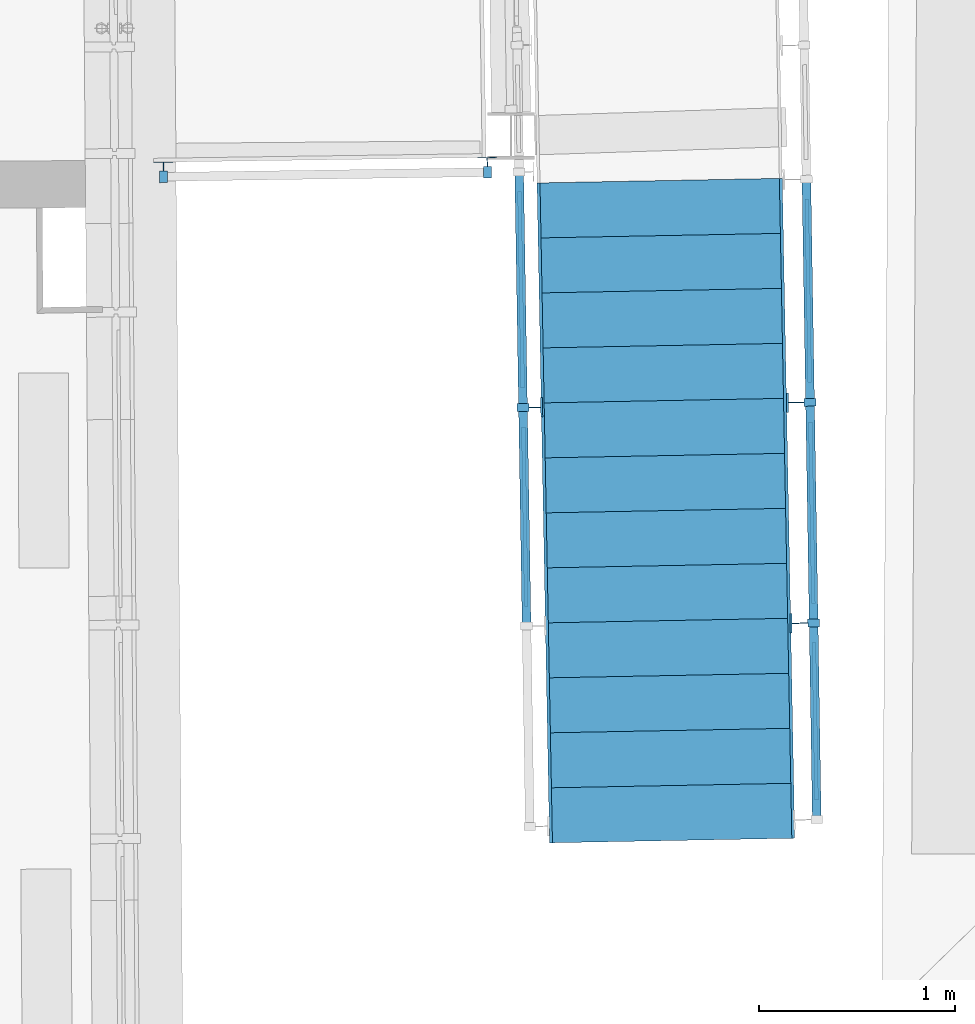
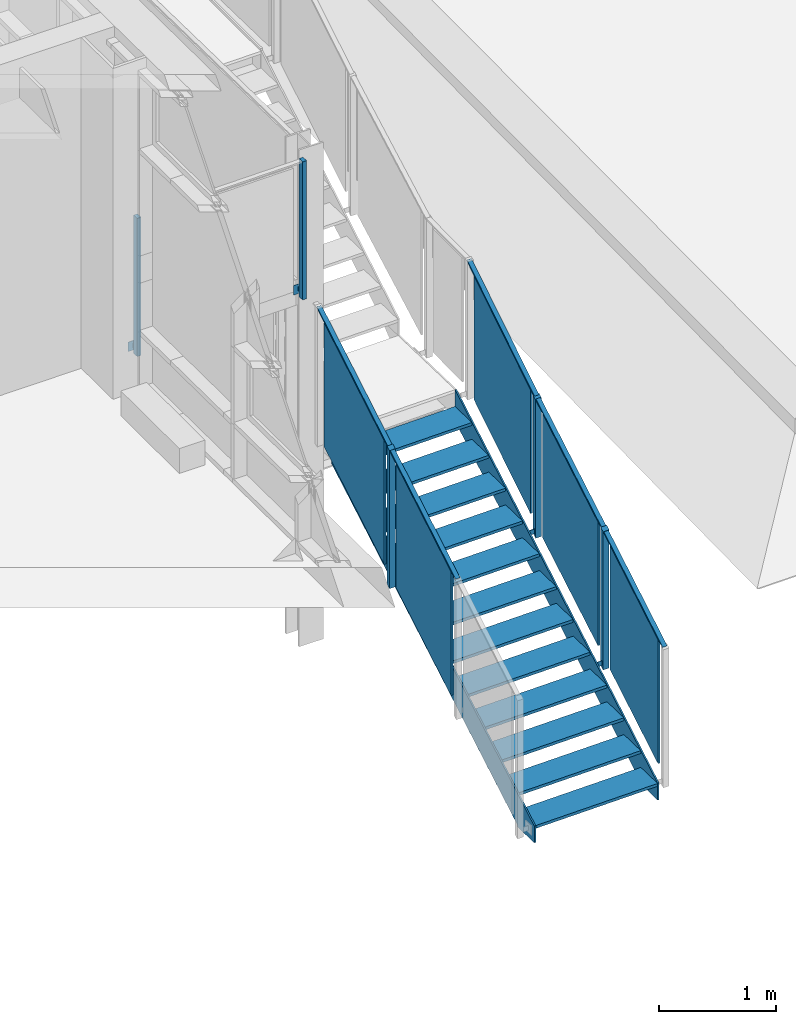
# One storey, part 107 of 158: 18 building element parts, 4 elements without a shape of their own.
"""IFC2X3 building model written with IfcOpenShell, lengths in metres."""

from ifc_helpers import new_model, entity, si_unit, converted_unit, derived_unit, money_unit, direction, frame, origin_with_axes, place, context, subcontext, project, spatial, faceted_brep, material, type_object, element, aggregate, save


model = new_model("IFC2X3")

# Units and contexts
model_context = context("Model", 3, precision=1e-05, world=origin_with_axes(), true_north=direction((0.0, 1.0)))
body_context = subcontext(model_context, "Body", "Model", "MODEL_VIEW")
ifc_project = project(units=[si_unit("LENGTHUNIT", "METRE"), si_unit("AREAUNIT", "SQUARE_METRE"), si_unit("VOLUMEUNIT", "CUBIC_METRE"), converted_unit("PLANEANGLEUNIT", "DEGREE", entity("IfcPlaneAngleMeasure", 0.0174532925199), si_unit("PLANEANGLEUNIT", "RADIAN"), dimensions=[0, 0, 0, 0, 0, 0, 0]), money_unit("EUR"), converted_unit("TIMEUNIT", "Year", entity("IfcTimeMeasure", 31556926.0), si_unit("TIMEUNIT", "SECOND"), dimensions=[0, 0, 1, 0, 0, 0, 0]), si_unit("MASSUNIT", "GRAM", prefix="KILO"), si_unit("THERMODYNAMICTEMPERATUREUNIT", "DEGREE_CELSIUS"), si_unit("LUMINOUSINTENSITYUNIT", "LUMEN"), si_unit("ENERGYUNIT", "JOULE", prefix="MEGA"), derived_unit("THERMALCONDUCTANCEUNIT", [(si_unit("POWERUNIT", "WATT"), 1), (si_unit("LENGTHUNIT", "METRE"), -1), (si_unit("THERMODYNAMICTEMPERATUREUNIT", "KELVIN"), -1)]), derived_unit("SPECIFICHEATCAPACITYUNIT", [(si_unit("ENERGYUNIT", "JOULE"), 1), (si_unit("MASSUNIT", "GRAM", prefix="KILO"), -1), (si_unit("THERMODYNAMICTEMPERATUREUNIT", "KELVIN"), -1)]), derived_unit("MASSDENSITYUNIT", [(si_unit("MASSUNIT", "GRAM", prefix="KILO"), 1), (si_unit("VOLUMEUNIT", "CUBIC_METRE"), -1)])], contexts=[model_context])

# Site, building, storey
site_placement = place(None, origin_with_axes())
site = spatial("IfcSite", under=ifc_project, at=site_placement, Name="Gelände", CompositionType="ELEMENT")
building_placement = place(site_placement, origin_with_axes())
building = spatial("IfcBuilding", under=site, at=building_placement, Name="Gebäude", CompositionType="ELEMENT")
storey_placement = place(building_placement, origin_with_axes())
storey = spatial("IfcBuildingStorey", under=building, at=storey_placement, Name="ERDGESCHOSS", CompositionType="ELEMENT", Elevation=0.0)

# Proxy, building element parts
building_element_proxy_type = type_object("IfcBuildingElementProxyType", Name="Geländerart", PredefinedType="NOTDEFINED")
proxy_1_placement = place(storey_placement, frame((-13.9943810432, 42.5620318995, 1.16389833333), z_axis=(0.0, 0.0, 1.0), x_axis=(0.999944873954, -0.0104999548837, 0.0)))
proxy_1 = element("IfcBuildingElementProxy", 1, at=proxy_1_placement, inside=storey, type_object=building_element_proxy_type, Name="Geländer-001")
ifc_material_1 = material(Name="56_Metall, Stahl verzinkt")
building_element_part_1_placement = place(proxy_1_placement, origin_with_axes())
building_element_part_1 = element("IfcBuildingElementPart", 2, at=building_element_part_1_placement, material=ifc_material_1, Name="56_Metall, Stahl verzinkt", context=body_context, shape_type="Brep", body=[
    faceted_brep([(0.331980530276, 0.0385918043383, 0.025), (0.331980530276, 0.0385918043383, 0.075), (0.330915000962, 0.0815786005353, 0.075), (0.330915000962, 0.0815786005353, 0.025), (0.33697899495, 0.0387157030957, 0.075), (0.33697899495, 0.0387157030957, 0.025), (0.335913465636, 0.0817024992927, 0.075), (0.335913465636, 0.0817024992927, 0.025)], [[[0, 1, 2, 3]], [[4, 1, 0, 5]], [[1, 4, 6, 2]], [[3, 2, 6, 7]], [[5, 0, 3, 7]], [[4, 5, 7, 6]]]),
    faceted_brep([(0.283355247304, 0.0834006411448, 0.1), (0.283429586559, 0.0804015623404, 0.1), (0.38339888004, 0.0828795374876, 0.1), (0.383324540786, 0.085878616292, 0.1), (0.283355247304, 0.0834006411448, 0.0), (0.283429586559, 0.0804015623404, 0.0), (0.38339888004, 0.0828795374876, 0.0), (0.383324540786, 0.085878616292, 0.0)], [[[0, 1, 2, 3]], [[4, 5, 1, 0]], [[1, 5, 6, 2]], [[3, 2, 6, 7]], [[0, 3, 7, 4]], [[7, 6, 5, 4]]]),
    faceted_brep([(0.314485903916, 0.0381581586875, 0.0), (0.315972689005, -0.0218234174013, 0.0), (0.315972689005, -0.0218234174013, 1.445), (0.314485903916, 0.0381581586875, 1.445), (0.354473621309, 0.0391493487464, 0.0), (0.355960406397, -0.0208322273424, 0.0), (0.355960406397, -0.0208322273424, 1.445), (0.354473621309, 0.0391493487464, 1.445)], [[[0, 1, 2, 3]], [[0, 4, 5, 1]], [[1, 5, 6, 2]], [[3, 2, 6, 7]], [[4, 0, 3, 7]], [[5, 4, 7, 6]]]),
])
building_element_part_2_placement = place(proxy_1_placement, origin_with_axes())
building_element_part_2 = element("IfcBuildingElementPart", 3, at=building_element_part_2_placement, material=ifc_material_1, Name="56_Metall, Stahl verzinkt", context=body_context, shape_type="Brep", body=[
    faceted_brep([(-1.31808667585, -0.00230901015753, 0.025), (-1.31808667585, -0.00230901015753, 0.075), (-1.31915220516, 0.0406777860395, 0.075), (-1.31915220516, 0.0406777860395, 0.025), (-1.31308821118, -0.00218511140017, 0.075), (-1.31308821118, -0.00218511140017, 0.025), (-1.31415374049, 0.0408016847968, 0.075), (-1.31415374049, 0.0408016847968, 0.025)], [[[0, 1, 2, 3]], [[4, 1, 0, 5]], [[1, 4, 6, 2]], [[3, 2, 6, 7]], [[5, 0, 3, 7]], [[4, 5, 7, 6]]]),
    faceted_brep([(-1.36671195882, 0.042499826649, 0.1), (-1.36663761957, 0.0395007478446, 0.1), (-1.26666832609, 0.0419787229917, 0.1), (-1.26674266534, 0.0449778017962, 0.1), (-1.36671195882, 0.042499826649, 0.0), (-1.36663761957, 0.0395007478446, 0.0), (-1.26666832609, 0.0419787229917, 0.0), (-1.26674266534, 0.0449778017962, 0.0)], [[[0, 1, 2, 3]], [[4, 5, 1, 0]], [[1, 5, 6, 2]], [[3, 2, 6, 7]], [[0, 3, 7, 4]], [[7, 6, 5, 4]]]),
    faceted_brep([(-1.33558130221, -0.00274265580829, 0.0), (-1.33409451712, -0.0627242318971, 0.0), (-1.33409451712, -0.0627242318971, 1.445), (-1.33558130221, -0.00274265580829, 1.445), (-1.29559358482, -0.00175146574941, 0.0), (-1.29410679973, -0.0617330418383, 0.0), (-1.29410679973, -0.0617330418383, 1.445), (-1.29559358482, -0.00175146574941, 1.445)], [[[0, 1, 2, 3]], [[0, 4, 5, 1]], [[1, 5, 6, 2]], [[3, 2, 6, 7]], [[4, 0, 3, 7]], [[5, 4, 7, 6]]]),
])
aggregate(proxy_1, [building_element_part_1, building_element_part_2])

proxy_2_placement = place(storey_placement, frame((-13.4431717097, 39.2328276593, -2.51797066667), z_axis=(0.0, 0.0, 1.0), x_axis=(1.0, 0.0, 0.0)))
proxy_2 = element("IfcBuildingElementProxy", 4, at=proxy_2_placement, inside=storey, type_object=building_element_proxy_type, Name="Geländer-001")
building_element_part_3_placement = place(proxy_2_placement, origin_with_axes())
building_element_part_3 = element("IfcBuildingElementPart", 5, at=building_element_part_3_placement, material=ifc_material_1, Name="56_Metall, Stahl verzinkt", context=body_context, shape_type="Brep", body=[
    faceted_brep([(-0.00455572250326, 2.13777193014, 1.360027), (-0.00455572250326, 2.13777193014, 1.410027), (0.0554363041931, 2.13875005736, 1.410027), (0.0554363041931, 2.13875005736, 1.360027), (-0.00447421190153, 2.13277259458, 1.410027), (-0.00447421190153, 2.13277259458, 1.360027), (0.0555178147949, 2.1337507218, 1.410027), (0.0555178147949, 2.1337507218, 1.360027)], [[[0, 1, 2, 3]], [[4, 1, 0, 5]], [[1, 4, 6, 2]], [[3, 2, 6, 7]], [[5, 0, 3, 7]], [[4, 5, 7, 6]]]),
    faceted_brep([(0.0646606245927, 2.18640676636, 1.435027), (0.0546619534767, 2.18624374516, 1.435027), (0.0562921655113, 2.086257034, 1.435027), (0.0662908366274, 2.0864200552, 1.435027), (0.0646606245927, 2.18640676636, 1.335027), (0.0546619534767, 2.18624374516, 1.335027), (0.0562921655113, 2.086257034, 1.335027), (0.0662908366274, 2.0864200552, 1.335027)], [[[0, 1, 2, 3]], [[4, 5, 1, 0]], [[1, 5, 6, 2]], [[3, 2, 6, 7]], [[0, 3, 7, 4]], [[7, 6, 5, 4]]]),
    faceted_brep([(-0.00484100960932, 2.15526960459, 1.34764300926), (-0.0648330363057, 2.15429147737, 1.34764300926), (-0.0648330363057, 2.15429147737, 2.79264300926), (-0.00484100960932, 2.15526960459, 2.79264300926), (-0.00418892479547, 2.11527492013, 1.32241099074), (-0.0641809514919, 2.11429679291, 1.32241099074), (-0.0641809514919, 2.11429679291, 2.76741099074), (-0.00418892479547, 2.11527492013, 2.76741099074)], [[[0, 1, 2, 3]], [[0, 4, 5, 1]], [[1, 5, 6, 2]], [[3, 2, 6, 7]], [[4, 0, 3, 7]], [[5, 4, 7, 6]]]),
])
building_element_part_4_placement = place(proxy_2_placement, origin_with_axes())
building_element_part_4 = element("IfcBuildingElementPart", 6, at=building_element_part_4_placement, material=ifc_material_1, Name="56_Metall, Stahl verzinkt", context=body_context, shape_type="Brep", body=[
    faceted_brep([(0.00613821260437, 1.02181193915, 2.077558), (0.00600975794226, 1.02976114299, 2.06483803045), (-0.0121444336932, 2.14315176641, 2.76734020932), (-0.0388559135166, 1.02108485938, 2.077558), (-0.0389843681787, 1.02903406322, 2.06483803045), (-0.0571384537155, 2.14241817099, 2.76734020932), (-0.0120139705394, 2.13514999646, 2.780027), (-0.0570079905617, 2.13441640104, 2.780027)], [[[0, 1, 2]], [[0, 3, 4, 1]], [[1, 5, 2]], [[0, 2, 6]], [[3, 0, 6]], [[4, 3, 7]], [[1, 4, 5]], [[6, 2, 5, 7]], [[3, 6, 7]], [[4, 7, 5]]]),
])
building_element_part_5_placement = place(proxy_2_placement, origin_with_axes())
building_element_part_5 = element("IfcBuildingElementPart", 7, at=building_element_part_5_placement, material=ifc_material_1, Name="56_Metall, Stahl verzinkt", context=body_context, shape_type="Brep", body=[
    faceted_brep([(-0.042879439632, 2.03463346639, 1.37193944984), (-0.0279877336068, 1.12127208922, 0.795645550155), (-0.0279877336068, 1.12127208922, 2.09064555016), (-0.042879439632, 2.03463346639, 2.66693944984), (-0.0283137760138, 1.14126943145, 2.07961561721), (-0.0283137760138, 1.14126943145, 0.831910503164), (-0.0425533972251, 2.01463612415, 1.38296938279), (-0.0425533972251, 2.01463612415, 2.63067449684), (-0.0079903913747, 1.12159813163, 0.795645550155), (-0.0228820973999, 2.03495950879, 1.37193944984), (-0.0079903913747, 1.12159813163, 2.09064555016), (-0.0228820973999, 2.03495950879, 2.66693944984), (-0.00831643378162, 1.14159547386, 0.831910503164), (-0.00831643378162, 1.14159547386, 2.07961561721), (-0.022556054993, 2.01496216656, 1.38296938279), (-0.022556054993, 2.01496216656, 2.63067449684)], [[[0, 1, 2, 3], [4, 5, 6, 7]], [[8, 1, 0, 9]], [[10, 2, 1, 8]], [[3, 2, 10, 11]], [[0, 3, 11, 9]], [[12, 5, 4, 13]], [[14, 6, 5, 12]], [[7, 6, 14, 15]], [[4, 7, 15, 13]], [[10, 8, 9, 11], [14, 12, 13, 15]]]),
    faceted_brep([(-0.0425533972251, 2.01463612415, 1.38296938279), (-0.0283137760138, 1.14126943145, 0.831910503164), (-0.0283137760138, 1.14126943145, 2.07961561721), (-0.0425533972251, 2.01463612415, 2.63067449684), (-0.00831643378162, 1.14159547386, 0.831910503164), (-0.022556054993, 2.01496216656, 1.38296938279), (-0.00831643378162, 1.14159547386, 2.07961561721), (-0.022556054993, 2.01496216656, 2.63067449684)], [[[0, 1, 2, 3]], [[4, 1, 0, 5]], [[6, 2, 1, 4]], [[3, 2, 6, 7]], [[0, 3, 7, 5]], [[6, 4, 5, 7]]]),
])
building_element_part_6_placement = place(proxy_2_placement, origin_with_axes())
building_element_part_6 = element("IfcBuildingElementPart", 8, at=building_element_part_6_placement, material=ifc_material_1, Name="56_Metall, Stahl verzinkt", context=body_context, shape_type="Brep", body=[
    faceted_brep([(-0.0120139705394, 2.13514999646, 2.780027), (-0.0121444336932, 2.14315176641, 2.76734020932), (-0.0316664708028, 3.34050784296, 3.522643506), (-0.0315916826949, 3.33592082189, 3.53748435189), (-0.0570079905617, 2.13441640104, 2.780027), (-0.0571384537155, 2.14241817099, 2.76734020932), (-0.0766604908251, 3.33977424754, 3.522643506), (-0.0765857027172, 3.33518722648, 3.53748435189)], [[[0, 1, 2, 3]], [[0, 4, 5, 1]], [[1, 5, 6, 2]], [[3, 2, 6, 7]], [[4, 0, 3, 7]], [[5, 4, 7, 6]]]),
])
building_element_part_7_placement = place(proxy_2_placement, origin_with_axes())
building_element_part_7 = element("IfcBuildingElementPart", 9, at=building_element_part_7_placement, material=ifc_material_1, Name="56_Metall, Stahl verzinkt", context=body_context, shape_type="Brep", body=[
    faceted_brep([(-0.0624571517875, 3.23540429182, 2.12941180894), (-0.0461398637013, 2.23460688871, 1.49809954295), (-0.0461398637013, 2.23460688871, 2.79309954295), (-0.0624571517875, 3.23540429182, 3.42441180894), (-0.0464659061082, 2.25460423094, 2.7820682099), (-0.0464659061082, 2.25460423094, 1.53435989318), (-0.0621311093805, 3.21540694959, 2.14044314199), (-0.0621311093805, 3.21540694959, 3.38815145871), (-0.0261425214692, 2.23493293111, 1.49809954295), (-0.0424598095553, 3.23573033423, 2.12941180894), (-0.0261425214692, 2.23493293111, 2.79309954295), (-0.0424598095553, 3.23573033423, 3.42441180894), (-0.0264685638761, 2.25493027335, 1.53435989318), (-0.0264685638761, 2.25493027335, 2.7820682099), (-0.0421337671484, 3.215732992, 2.14044314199), (-0.0421337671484, 3.215732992, 3.38815145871)], [[[0, 1, 2, 3], [4, 5, 6, 7]], [[8, 1, 0, 9]], [[10, 2, 1, 8]], [[3, 2, 10, 11]], [[0, 3, 11, 9]], [[12, 5, 4, 13]], [[14, 6, 5, 12]], [[7, 6, 14, 15]], [[4, 7, 15, 13]], [[10, 8, 9, 11], [14, 12, 13, 15]]]),
    faceted_brep([(-0.0621311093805, 3.21540694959, 2.14044314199), (-0.0464659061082, 2.25460423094, 1.53435989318), (-0.0464659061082, 2.25460423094, 2.7820682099), (-0.0621311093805, 3.21540694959, 3.38815145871), (-0.0264685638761, 2.25493027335, 1.53435989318), (-0.0421337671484, 3.215732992, 2.14044314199), (-0.0264685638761, 2.25493027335, 2.7820682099), (-0.0421337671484, 3.215732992, 3.38815145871)], [[[0, 1, 2, 3]], [[4, 1, 0, 5]], [[6, 2, 1, 4]], [[3, 2, 6, 7]], [[0, 3, 7, 5]], [[6, 4, 5, 7]]]),
])
aggregate(proxy_2, [building_element_part_3, building_element_part_4, building_element_part_5, building_element_part_6, building_element_part_7])

proxy_3_placement = place(storey_placement, frame((-12.121386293, 39.1724071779, -2.51797066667), z_axis=(0.0, 0.0, 1.0), x_axis=(1.0, 0.0, 0.0)))
proxy_3 = element("IfcBuildingElementProxy", 10, at=proxy_3_placement, inside=storey, type_object=building_element_proxy_type, Name="Geländer-001")
building_element_part_8_placement = place(proxy_3_placement, origin_with_axes())
building_element_part_8 = element("IfcBuildingElementPart", 11, at=building_element_part_8_placement, material=ifc_material_1, Name="56_Metall, Stahl verzinkt", context=body_context, shape_type="Brep", body=[
    faceted_brep([(0.0949144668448, 1.09425760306, 0.707558), (0.0948344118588, 1.09925696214, 0.707558), (0.0148446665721, 1.09797608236, 0.707558), (0.0149247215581, 1.09297672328, 0.707558), (0.0948344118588, 1.09925696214, 0.657558), (0.0949144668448, 1.09425760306, 0.657558), (0.0148446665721, 1.09797608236, 0.657558), (0.0149247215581, 1.09297672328, 0.657558)], [[[0, 1, 2, 3]], [[4, 1, 0, 5]], [[1, 4, 6, 2]], [[7, 3, 2, 6]], [[5, 0, 3, 7]], [[4, 5, 7, 6]]]),
    faceted_brep([(0.00568652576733, 1.04532270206, 0.732558), (0.015685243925, 1.04548281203, 0.732558), (0.0140841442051, 1.14546999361, 0.732558), (0.00408542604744, 1.14530988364, 0.732558), (0.00568652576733, 1.04532270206, 0.632558), (0.015685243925, 1.04548281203, 0.632558), (0.0140841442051, 1.14546999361, 0.632558), (0.00408542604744, 1.14530988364, 0.632558)], [[[0, 1, 2, 3]], [[4, 5, 1, 0]], [[1, 5, 6, 2]], [[3, 2, 6, 7]], [[0, 3, 7, 4]], [[7, 6, 5, 4]]]),
    faceted_brep([(0.154546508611, 1.11771660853, 0.645113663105), (0.0945542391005, 1.11675348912, 0.645117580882), (0.0945542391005, 1.11675348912, 2.09011758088), (0.154546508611, 1.11771660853, 2.0901136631), (0.155186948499, 1.0777217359, 0.619998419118), (0.0951946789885, 1.07675861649, 0.620002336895), (0.0951946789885, 1.07675861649, 2.0650023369), (0.155186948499, 1.0777217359, 2.06499841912)], [[[0, 1, 2, 3]], [[0, 4, 5, 1]], [[1, 5, 6, 2]], [[3, 2, 6, 7]], [[4, 0, 3, 7]], [[5, 4, 7, 6]]]),
])
building_element_part_9_placement = place(proxy_3_placement, origin_with_axes())
building_element_part_9 = element("IfcBuildingElementPart", 12, at=building_element_part_9_placement, material=ifc_material_1, Name="56_Metall, Stahl verzinkt", context=body_context, shape_type="Brep", body=[
    faceted_brep([(0.0765735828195, 2.21921392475, 1.410027), (0.0764920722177, 2.22421326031, 1.410027), (-0.00349729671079, 2.22290909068, 1.410027), (-0.00341578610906, 2.21790975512, 1.410027), (0.0764920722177, 2.22421326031, 1.360027), (0.0765735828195, 2.21921392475, 1.360027), (-0.00349729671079, 2.22290909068, 1.360027), (-0.00341578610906, 2.21790975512, 1.360027)], [[[0, 1, 2, 3]], [[4, 1, 0, 5]], [[1, 4, 6, 2]], [[7, 3, 2, 6]], [[5, 0, 3, 7]], [[4, 5, 7, 6]]]),
    faceted_brep([(-0.0126401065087, 2.17025304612, 1.435027), (-0.0026414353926, 2.17041606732, 1.435027), (-0.00427164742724, 2.27040277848, 1.435027), (-0.0142703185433, 2.27023975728, 1.435027), (-0.0126401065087, 2.17025304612, 1.335027), (-0.0026414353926, 2.17041606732, 1.335027), (-0.00427164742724, 2.27040277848, 1.335027), (-0.0142703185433, 2.27023975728, 1.335027)], [[[0, 1, 2, 3]], [[4, 5, 1, 0]], [[1, 5, 6, 2]], [[3, 2, 6, 7]], [[0, 3, 7, 4]], [[7, 6, 5, 4]]]),
    faceted_brep([(0.136198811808, 2.24268906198, 1.34792736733), (0.0762067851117, 2.24171093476, 1.34792736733), (0.0762067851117, 2.24171093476, 2.79292736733), (0.136198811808, 2.24268906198, 2.79292736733), (0.136850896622, 2.20269437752, 1.32212663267), (0.0768588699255, 2.2017162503, 1.32212663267), (0.0768588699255, 2.2017162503, 2.76712663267), (0.136850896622, 2.20269437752, 2.76712663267)], [[[0, 1, 2, 3]], [[0, 4, 5, 1]], [[1, 5, 6, 2]], [[3, 2, 6, 7]], [[4, 0, 3, 7]], [[5, 4, 7, 6]]]),
])
building_element_part_10_placement = place(proxy_3_placement, origin_with_axes())
building_element_part_10 = element("IfcBuildingElementPart", 13, at=building_element_part_10_placement, material=ifc_material_1, Name="56_Metall, Stahl verzinkt", context=body_context, shape_type="Brep", body=[
    faceted_brep([(0.163407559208, 0.0959242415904, 1.445), (0.163279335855, 0.103931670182, 1.43231675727), (0.147238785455, 1.10557641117, 2.06485446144), (0.118413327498, 0.0952037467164, 1.445), (0.118285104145, 0.103211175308, 1.43231675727), (0.102244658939, 1.10484935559, 2.06485446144), (0.147367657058, 1.0976011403, 2.077558), (0.102373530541, 1.09687408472, 2.077558)], [[[0, 1, 2]], [[0, 3, 4, 1]], [[1, 5, 2]], [[0, 2, 6]], [[3, 0, 6]], [[4, 3, 7]], [[1, 4, 5]], [[6, 2, 5, 7]], [[3, 6, 7]], [[4, 7, 5]]]),
])
building_element_part_11_placement = place(proxy_3_placement, origin_with_axes())
building_element_part_11 = element("IfcBuildingElementPart", 14, at=building_element_part_11_placement, material=ifc_material_1, Name="56_Metall, Stahl verzinkt", context=body_context, shape_type="Brep", body=[
    faceted_brep([(0.116472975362, 0.997090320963, 0.669415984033), (0.129310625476, 0.195391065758, 0.163142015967), (0.129310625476, 0.195391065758, 1.45814201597), (0.116472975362, 0.997090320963, 1.96441598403), (0.128990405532, 0.215388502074, 1.44711716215), (0.128990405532, 0.215388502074, 0.199423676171), (0.116793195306, 0.977092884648, 0.680440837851), (0.116793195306, 0.977092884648, 1.92813432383), (0.149308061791, 0.195711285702, 0.163142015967), (0.136470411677, 0.997410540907, 0.669415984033), (0.149308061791, 0.195711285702, 1.45814201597), (0.136470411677, 0.997410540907, 1.96441598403), (0.148987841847, 0.215708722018, 0.199423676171), (0.148987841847, 0.215708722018, 1.44711716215), (0.136790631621, 0.977413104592, 0.680440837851), (0.136790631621, 0.977413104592, 1.92813432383)], [[[0, 1, 2, 3], [4, 5, 6, 7]], [[8, 1, 0, 9]], [[10, 2, 1, 8]], [[3, 2, 10, 11]], [[0, 3, 11, 9]], [[12, 5, 4, 13]], [[14, 6, 5, 12]], [[7, 6, 14, 15]], [[4, 7, 15, 13]], [[10, 8, 9, 11], [14, 12, 13, 15]]]),
    faceted_brep([(0.116793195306, 0.977092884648, 0.680440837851), (0.128990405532, 0.215388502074, 0.199423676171), (0.128990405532, 0.215388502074, 1.44711716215), (0.116793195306, 0.977092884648, 1.92813432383), (0.148987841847, 0.215708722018, 0.199423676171), (0.136790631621, 0.977413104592, 0.680440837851), (0.148987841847, 0.215708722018, 1.44711716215), (0.136790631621, 0.977413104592, 1.92813432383)], [[[0, 1, 2, 3]], [[4, 1, 0, 5]], [[6, 2, 1, 4]], [[3, 2, 6, 7]], [[0, 3, 7, 5]], [[6, 4, 5, 7]]]),
])
building_element_part_12_placement = place(proxy_3_placement, origin_with_axes())
building_element_part_12 = element("IfcBuildingElementPart", 15, at=building_element_part_12_placement, material=ifc_material_1, Name="56_Metall, Stahl verzinkt", context=body_context, shape_type="Brep", body=[
    faceted_brep([(0.147367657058, 1.0976011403, 2.077558), (0.147238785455, 1.10557641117, 2.06485446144), (0.128893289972, 2.23069988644, 2.76742036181), (0.102373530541, 1.09687408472, 2.077558), (0.102244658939, 1.10484935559, 2.06485446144), (0.0838992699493, 2.22996629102, 2.76742036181), (0.129025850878, 2.22256945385, 2.780027), (0.0840318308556, 2.22183585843, 2.780027)], [[[0, 1, 2]], [[0, 3, 4, 1]], [[1, 5, 2]], [[0, 2, 6]], [[3, 0, 6]], [[4, 3, 7]], [[1, 4, 5]], [[6, 2, 5, 7]], [[3, 6, 7]], [[4, 7, 5]]]),
])
building_element_part_13_placement = place(proxy_3_placement, origin_with_axes())
building_element_part_13 = element("IfcBuildingElementPart", 16, at=building_element_part_13_placement, material=ifc_material_1, Name="56_Metall, Stahl verzinkt", context=body_context, shape_type="Brep", body=[
    faceted_brep([(0.0981603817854, 2.12205292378, 1.37259166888), (0.113241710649, 1.19706130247, 0.794993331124), (0.113241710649, 1.19706130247, 2.08999333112), (0.0981603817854, 2.12205292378, 2.66759166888), (0.112915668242, 1.2170586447, 2.07890229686), (0.112915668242, 1.2170586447, 0.831058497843), (0.0984864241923, 2.10205558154, 1.38368270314), (0.0984864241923, 2.10205558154, 2.63152650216), (0.133239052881, 1.19738734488, 0.794993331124), (0.118157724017, 2.12237896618, 1.37259166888), (0.133239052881, 1.19738734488, 2.08999333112), (0.118157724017, 2.12237896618, 2.66759166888), (0.132913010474, 1.21738468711, 0.831058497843), (0.132913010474, 1.21738468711, 2.07890229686), (0.118483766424, 2.10238162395, 1.38368270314), (0.118483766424, 2.10238162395, 2.63152650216)], [[[0, 1, 2, 3], [4, 5, 6, 7]], [[8, 1, 0, 9]], [[10, 2, 1, 8]], [[3, 2, 10, 11]], [[0, 3, 11, 9]], [[12, 5, 4, 13]], [[14, 6, 5, 12]], [[7, 6, 14, 15]], [[4, 7, 15, 13]], [[10, 8, 9, 11], [14, 12, 13, 15]]]),
    faceted_brep([(0.0984864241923, 2.10205558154, 1.38368270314), (0.112915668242, 1.2170586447, 0.831058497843), (0.112915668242, 1.2170586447, 2.07890229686), (0.0984864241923, 2.10205558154, 2.63152650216), (0.132913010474, 1.21738468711, 0.831058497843), (0.118483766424, 2.10238162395, 1.38368270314), (0.132913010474, 1.21738468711, 2.07890229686), (0.118483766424, 2.10238162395, 2.63152650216)], [[[0, 1, 2, 3]], [[4, 1, 0, 5]], [[6, 2, 1, 4]], [[3, 2, 6, 7]], [[0, 3, 7, 5]], [[6, 4, 5, 7]]]),
])
building_element_part_14_placement = place(proxy_3_placement, origin_with_axes())
building_element_part_14 = element("IfcBuildingElementPart", 17, at=building_element_part_14_placement, material=ifc_material_1, Name="56_Metall, Stahl verzinkt", context=body_context, shape_type="Brep", body=[
    faceted_brep([(0.129025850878, 2.22256945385, 2.780027), (0.128893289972, 2.23069988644, 2.76742036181), (0.110409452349, 3.36437949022, 3.5226419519), (0.11048729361, 3.35960520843, 3.53748435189), (0.0840318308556, 2.22183585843, 2.780027), (0.0838992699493, 2.22996629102, 2.76742036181), (0.0654154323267, 3.3636458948, 3.5226419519), (0.0654932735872, 3.35887161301, 3.53748435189)], [[[0, 1, 2, 3]], [[0, 4, 5, 1]], [[1, 5, 6, 2]], [[3, 2, 6, 7]], [[4, 0, 3, 7]], [[5, 4, 7, 6]]]),
])
building_element_part_15_placement = place(proxy_3_placement, origin_with_axes())
building_element_part_15 = element("IfcBuildingElementPart", 18, at=building_element_part_15_placement, material=ifc_material_1, Name="56_Metall, Stahl verzinkt", context=body_context, shape_type="Brep", body=[
    faceted_brep([(0.079621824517, 3.25908867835, 2.125876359), (0.0948999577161, 2.3220263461, 1.50163499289), (0.0948999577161, 2.3220263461, 2.79663499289), (0.079621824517, 3.25908867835, 3.420876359), (0.0945739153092, 2.34202368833, 2.78592609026), (0.0945739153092, 2.34202368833, 1.53898709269), (0.0799478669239, 3.23909133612, 2.13658526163), (0.0799478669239, 3.23909133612, 3.3835242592), (0.114897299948, 2.32235238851, 1.50163499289), (0.0996191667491, 3.25941472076, 2.125876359), (0.114897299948, 2.32235238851, 2.79663499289), (0.0996191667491, 3.25941472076, 3.420876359), (0.114571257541, 2.34234973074, 1.53898709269), (0.114571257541, 2.34234973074, 2.78592609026), (0.099945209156, 3.23941737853, 2.13658526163), (0.099945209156, 3.23941737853, 3.3835242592)], [[[0, 1, 2, 3], [4, 5, 6, 7]], [[8, 1, 0, 9]], [[10, 2, 1, 8]], [[3, 2, 10, 11]], [[0, 3, 11, 9]], [[12, 5, 4, 13]], [[14, 6, 5, 12]], [[7, 6, 14, 15]], [[4, 7, 15, 13]], [[10, 8, 9, 11], [14, 12, 13, 15]]]),
    faceted_brep([(0.0799478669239, 3.23909133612, 2.13658526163), (0.0945739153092, 2.34202368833, 1.53898709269), (0.0945739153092, 2.34202368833, 2.78592609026), (0.0799478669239, 3.23909133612, 3.3835242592), (0.114571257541, 2.34234973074, 1.53898709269), (0.099945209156, 3.23941737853, 2.13658526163), (0.114571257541, 2.34234973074, 2.78592609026), (0.099945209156, 3.23941737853, 3.3835242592)], [[[0, 1, 2, 3]], [[4, 1, 0, 5]], [[6, 2, 1, 4]], [[3, 2, 6, 7]], [[0, 3, 7, 5]], [[6, 4, 5, 7]]]),
])
aggregate(proxy_3, [building_element_part_8, building_element_part_9, building_element_part_10, building_element_part_11, building_element_part_12, building_element_part_13, building_element_part_14, building_element_part_15])

# Stair, building element parts
stair_placement = place(storey_placement, frame((-12.1077612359, 39.1726676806, -2.57739722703), z_axis=(0.0, 0.0, 1.0), x_axis=(0.999990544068, 0.00434876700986, 0.0)))
stair = element("IfcStair", 19, at=stair_placement, inside=storey, Name="Treppe-003", ShapeType="NOTDEFINED")
building_element_part_16_placement = place(stair_placement, origin_with_axes())
building_element_part_16 = element("IfcBuildingElementPart", 20, at=building_element_part_16_placement, material=ifc_material_1, Name="56_Metall, Stahl verzinkt", context=body_context, shape_type="Brep", body=[
    faceted_brep([(-1.26880536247, 3.34537326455, 1.94720618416), (-1.26880536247, 3.34537326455, 2.27739722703), (-1.21987087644, -0.017749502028, 0.17518440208), (-1.21987087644, -0.017749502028, 0.0), (-1.22394453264, 0.262220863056, 0.0), (-1.22394453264, 0.262220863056, 0.0199965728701), (-1.28380377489, 3.34515503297, 2.27739722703), (-1.28380377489, 3.34515503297, 1.94720618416), (-1.23486928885, -0.0179677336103, 0.17518440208), (-1.23486928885, -0.0179677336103, 0.0), (-1.23894294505, 0.262002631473, 0.0), (-1.23894294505, 0.262002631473, 0.0199965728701)], [[[0, 1, 2, 3, 4, 5]], [[6, 1, 0, 7]], [[1, 6, 8, 2]], [[3, 2, 8, 9]], [[3, 9, 10, 4]], [[10, 11, 5, 4]], [[7, 0, 5, 11]], [[6, 7, 11, 10, 9, 8]]]),
])
building_element_part_17_placement = place(stair_placement, origin_with_axes())
building_element_part_17 = element("IfcBuildingElementPart", 21, at=building_element_part_17_placement, material=ifc_material_1, Name="56_Metall, Stahl verzinkt", context=body_context, shape_type="Brep", body=[
    faceted_brep([(-0.0339360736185, 3.36334099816, 1.94720618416), (-0.0339360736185, 3.36334099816, 2.27739722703), (0.0149984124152, 0.000218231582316, 0.17518440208), (0.0149984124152, 0.000218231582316, 0.0), (0.0109247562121, 0.280188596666, 0.0), (0.0109247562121, 0.280188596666, 0.0199965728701), (-0.0489344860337, 3.36312276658, 2.27739722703), (-0.0489344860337, 3.36312276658, 1.94720618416), (0.0, 0.0, 0.17518440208), (0.0, 0.0, 0.0), (-0.00407365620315, 0.279970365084, 0.0), (-0.00407365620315, 0.279970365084, 0.0199965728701)], [[[0, 1, 2, 3, 4, 5]], [[6, 1, 0, 7]], [[1, 6, 8, 2]], [[3, 2, 8, 9]], [[3, 9, 10, 4]], [[10, 11, 5, 4]], [[7, 0, 5, 11]], [[6, 7, 11, 10, 9, 8]]]),
])
ifc_material_2 = material(Name="05_ALLGEMEIN - TRAGENDE BAUTEILE")
building_element_part_18_placement = place(stair_placement, origin_with_axes())
building_element_part_18 = element("IfcBuildingElementPart", 22, at=building_element_part_18_placement, material=ifc_material_2, Name="05_ALLGEMEIN - TRAGENDE BAUTEILE", context=body_context, shape_type="Brep", body=[
    faceted_brep([(-1.26880535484, 3.34537326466, 2.07221282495), (-1.26472748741, 3.06511303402, 2.07221282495), (-1.26472748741, 3.06511303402, 2.10221282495), (-1.26880535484, 3.34537326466, 2.10221282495), (-0.0489344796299, 3.36312276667, 2.07221282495), (-0.0448566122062, 3.08286253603, 2.07221282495), (-0.0448566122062, 3.08286253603, 2.10221282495), (-0.0489344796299, 3.36312276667, 2.10221282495)], [[[0, 1, 2, 3]], [[4, 5, 1, 0]], [[1, 5, 6, 2]], [[3, 2, 6, 7]], [[0, 3, 7, 4]], [[5, 4, 7, 6]]]),
    faceted_brep([(-1.219870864, -0.0177495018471, 0.14518440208), (-1.219870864, -0.0177495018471, 0.17518440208), (-1.22394876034, 0.262510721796, 0.17518440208), (-1.22394876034, 0.262510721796, 0.14518440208), (0.0, 4.92679297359e-09, 0.14518440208), (0.0, 4.92679297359e-09, 0.17518440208), (-0.00407785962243, 0.280260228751, 0.17518440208), (-0.00407785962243, 0.280260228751, 0.14518440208)], [[[0, 1, 2, 3]], [[4, 5, 1, 0]], [[1, 5, 6, 2]], [[2, 6, 7, 3]], [[4, 0, 3, 7]], [[7, 6, 5, 4]]]),
    faceted_brep([(-1.22394873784, 0.262510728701, 0.320368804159), (-1.22394873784, 0.262510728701, 0.350368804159), (-1.22802663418, 0.542770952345, 0.350368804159), (-1.22802663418, 0.542770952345, 0.320368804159), (-0.00407787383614, 0.280260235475, 0.320368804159), (-0.00407787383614, 0.280260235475, 0.350368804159), (-0.00815573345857, 0.5605204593, 0.350368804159), (-0.00815573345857, 0.5605204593, 0.320368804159)], [[[0, 1, 2, 3]], [[4, 5, 1, 0]], [[1, 5, 6, 2]], [[2, 6, 7, 3]], [[4, 0, 3, 7]], [[7, 6, 5, 4]]]),
    faceted_brep([(-1.22802661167, 0.54277095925, 0.495553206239), (-1.22802661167, 0.54277095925, 0.525553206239), (-1.23210450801, 0.823031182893, 0.525553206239), (-1.23210450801, 0.823031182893, 0.495553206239), (-0.00815574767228, 0.560520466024, 0.495553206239), (-0.00815574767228, 0.560520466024, 0.525553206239), (-0.0122336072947, 0.840780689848, 0.525553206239), (-0.0122336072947, 0.840780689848, 0.495553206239)], [[[0, 1, 2, 3]], [[4, 5, 1, 0]], [[1, 5, 6, 2]], [[2, 6, 7, 3]], [[4, 0, 3, 7]], [[7, 6, 5, 4]]]),
    faceted_brep([(-1.23210448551, 0.823031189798, 0.670737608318), (-1.23210448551, 0.823031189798, 0.700737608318), (-1.23618238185, 1.10329141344, 0.700737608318), (-1.23618238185, 1.10329141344, 0.670737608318), (-0.0122336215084, 0.840780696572, 0.670737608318), (-0.0122336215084, 0.840780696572, 0.700737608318), (-0.0163114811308, 1.1210409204, 0.700737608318), (-0.0163114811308, 1.1210409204, 0.670737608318)], [[[0, 1, 2, 3]], [[4, 5, 1, 0]], [[1, 5, 6, 2]], [[2, 6, 7, 3]], [[4, 0, 3, 7]], [[7, 6, 5, 4]]]),
    faceted_brep([(-1.23618235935, 1.10329142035, 0.845922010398), (-1.23618235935, 1.10329142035, 0.875922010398), (-1.24026025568, 1.38355164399, 0.875922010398), (-1.24026025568, 1.38355164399, 0.845922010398), (-0.0163114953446, 1.12104092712, 0.845922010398), (-0.0163114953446, 1.12104092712, 0.875922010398), (-0.020389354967, 1.40130115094, 0.875922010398), (-0.020389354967, 1.40130115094, 0.845922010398)], [[[0, 1, 2, 3]], [[4, 5, 1, 0]], [[1, 5, 6, 2]], [[2, 6, 7, 3]], [[4, 0, 3, 7]], [[7, 6, 5, 4]]]),
    faceted_brep([(-1.24026023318, 1.38355165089, 1.02110641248), (-1.24026023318, 1.38355165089, 1.05110641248), (-1.24433812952, 1.66381187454, 1.05110641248), (-1.24433812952, 1.66381187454, 1.02110641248), (-0.0203893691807, 1.40130115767, 1.02110641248), (-0.0203893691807, 1.40130115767, 1.05110641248), (-0.0244672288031, 1.68156138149, 1.05110641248), (-0.0244672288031, 1.68156138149, 1.02110641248)], [[[0, 1, 2, 3]], [[4, 5, 1, 0]], [[1, 5, 6, 2]], [[2, 6, 7, 3]], [[4, 0, 3, 7]], [[7, 6, 5, 4]]]),
    faceted_brep([(-1.24433810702, 1.66381188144, 1.19629081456), (-1.24433810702, 1.66381188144, 1.22629081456), (-1.24841600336, 1.94407210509, 1.22629081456), (-1.24841600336, 1.94407210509, 1.19629081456), (-0.0244672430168, 1.68156138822, 1.19629081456), (-0.0244672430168, 1.68156138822, 1.22629081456), (-0.0285451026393, 1.96182161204, 1.22629081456), (-0.0285451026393, 1.96182161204, 1.19629081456)], [[[0, 1, 2, 3]], [[4, 5, 1, 0]], [[1, 5, 6, 2]], [[2, 6, 7, 3]], [[4, 0, 3, 7]], [[7, 6, 5, 4]]]),
    faceted_brep([(-1.24841598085, 1.94407211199, 1.37147521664), (-1.24841598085, 1.94407211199, 1.40147521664), (-1.25249387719, 2.22433233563, 1.40147521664), (-1.25249387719, 2.22433233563, 1.37147521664), (-0.028545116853, 1.96182161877, 1.37147521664), (-0.028545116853, 1.96182161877, 1.40147521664), (-0.0326229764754, 2.24208184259, 1.40147521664), (-0.0326229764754, 2.24208184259, 1.37147521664)], [[[0, 1, 2, 3]], [[4, 5, 1, 0]], [[1, 5, 6, 2]], [[2, 6, 7, 3]], [[4, 0, 3, 7]], [[7, 6, 5, 4]]]),
    faceted_brep([(-1.25249385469, 2.22433234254, 1.54665961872), (-1.25249385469, 2.22433234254, 1.57665961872), (-1.25657175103, 2.50459256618, 1.57665961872), (-1.25657175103, 2.50459256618, 1.54665961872), (-0.0326229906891, 2.24208184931, 1.54665961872), (-0.0326229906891, 2.24208184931, 1.57665961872), (-0.0367008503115, 2.52234207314, 1.57665961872), (-0.0367008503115, 2.52234207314, 1.54665961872)], [[[0, 1, 2, 3]], [[4, 5, 1, 0]], [[1, 5, 6, 2]], [[2, 6, 7, 3]], [[4, 0, 3, 7]], [[7, 6, 5, 4]]]),
    faceted_brep([(-1.25657173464, 2.504592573, 1.7218440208), (-1.25657173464, 2.504592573, 1.7518440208), (-1.26064962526, 2.7848528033, 1.7518440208), (-1.26064962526, 2.7848528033, 1.7218440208), (-0.0367008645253, 2.52234207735, 1.7218440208), (-0.0367008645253, 2.52234207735, 1.7518440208), (-0.0407787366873, 2.80260230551, 1.7518440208), (-0.0407787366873, 2.80260230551, 1.7218440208)], [[[0, 1, 2, 3]], [[4, 5, 1, 0]], [[1, 5, 6, 2]], [[2, 6, 7, 3]], [[4, 0, 3, 7]], [[7, 6, 5, 4]]]),
    faceted_brep([(-1.26064962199, 2.78485280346, 1.89702842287), (-1.26064962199, 2.78485280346, 1.92702842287), (-1.2647274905, 3.06511303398, 1.92702842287), (-1.2647274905, 3.06511303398, 1.89702842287), (-0.0407787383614, 2.80260230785, 1.89702842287), (-0.0407787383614, 2.80260230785, 1.92702842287), (-0.0448566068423, 3.08286253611, 1.92702842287), (-0.0448566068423, 3.08286253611, 1.89702842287)], [[[0, 1, 2, 3]], [[4, 5, 1, 0]], [[1, 5, 6, 2]], [[2, 6, 7, 3]], [[4, 0, 3, 7]], [[7, 6, 5, 4]]]),
])
aggregate(stair, [building_element_part_16, building_element_part_17, building_element_part_18])

save(model, "model.ifc")
